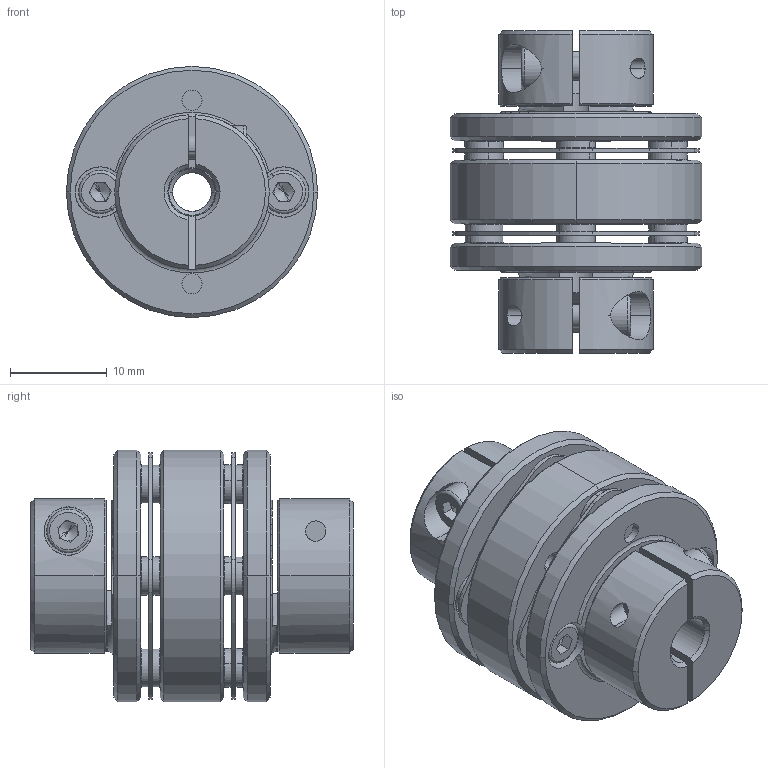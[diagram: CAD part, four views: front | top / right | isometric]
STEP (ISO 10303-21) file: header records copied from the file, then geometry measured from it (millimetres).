
FILE_DESCRIPTION (( 'STEP AP203' ), '1' );
FILE_NAME ('LE2-B-D26L35-4-5.STEP', '2021-11-01T05:41:32', ( '' ), ( '' ), 'SwSTEP 2.0', 'SolidWorks 2018', '' );
FILE_SCHEMA (( 'CONFIG_CONTROL_DESIGN' ));
Length unit declared in the file: millimetre
Products named in the file (1): LE2-B-D26L35-4-5
Bounding box: 26 x 33.4 x 26 mm (x, y, z)
Volume: 8063.9 mm3; surface area: 8442.3 mm2
Topology: 1 solids, 19 shells, 672 faces, 1560 edges, 938 vertices
Faces by surface type: cylinder 228, plane 218, cone 202, torus 24
Entity records: 19397 total; most frequent: DIRECTION 3628, CARTESIAN_POINT 3493, ORIENTED_EDGE 3080, EDGE_CURVE 1540, AXIS2_PLACEMENT_3D 1467, VERTEX_POINT 938, CIRCLE 794, EDGE_LOOP 782
